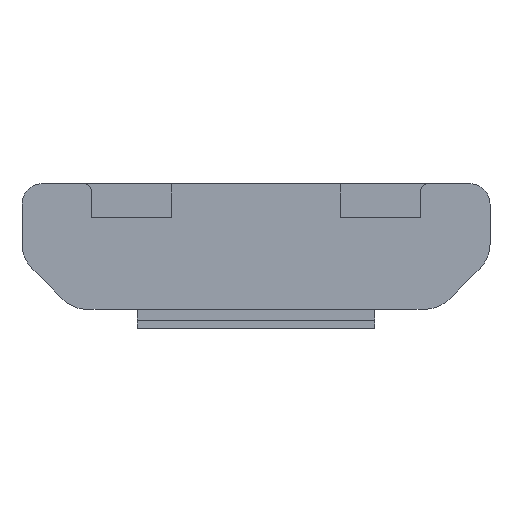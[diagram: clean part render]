
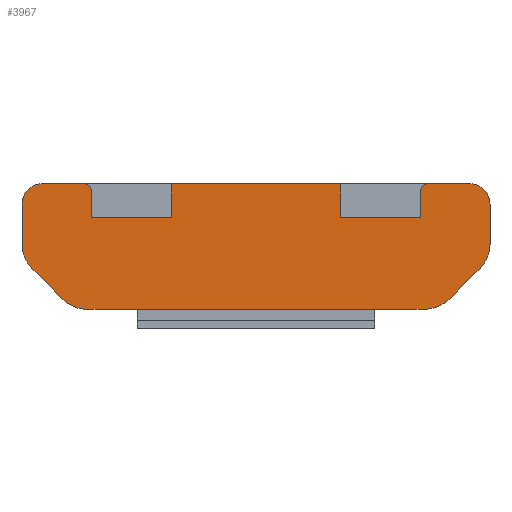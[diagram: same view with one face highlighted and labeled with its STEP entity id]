
A CAD part, front view. The second image highlights one B-rep face of the part: STEP entity #3967.
In plain terms, the highlighted planar face has unit normal (0, -1, 0).
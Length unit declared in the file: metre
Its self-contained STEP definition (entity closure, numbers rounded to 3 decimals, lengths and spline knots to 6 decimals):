
#104=PLANE('',#4334);
#145=ELLIPSE('',#4274,0.000501,0.0005);
#147=ELLIPSE('',#4277,0.000501,0.0005);
#517=LINE('',#6522,#955);
#521=LINE('',#6530,#959);
#542=LINE('',#6569,#980);
#546=LINE('',#6577,#984);
#547=LINE('',#6579,#985);
#552=LINE('',#6589,#990);
#555=LINE('',#6595,#993);
#557=LINE('',#6599,#995);
#562=LINE('',#6613,#1000);
#563=LINE('',#6614,#1001);
#564=LINE('',#6615,#1002);
#565=LINE('',#6616,#1003);
#566=LINE('',#6617,#1004);
#567=LINE('',#6618,#1005);
#568=LINE('',#6619,#1006);
#569=LINE('',#6620,#1007);
#955=VECTOR('',#5332,1.);
#959=VECTOR('',#5338,1.);
#980=VECTOR('',#5371,1.);
#984=VECTOR('',#5377,1.);
#985=VECTOR('',#5380,1.);
#990=VECTOR('',#5389,1.);
#993=VECTOR('',#5394,1.);
#995=VECTOR('',#5398,1.);
#1000=VECTOR('',#5413,1.);
#1001=VECTOR('',#5414,1.);
#1002=VECTOR('',#5415,1.);
#1003=VECTOR('',#5416,1.);
#1004=VECTOR('',#5417,1.);
#1005=VECTOR('',#5418,1.);
#1006=VECTOR('',#5419,1.);
#1007=VECTOR('',#5420,1.);
#1920=ORIENTED_EDGE('',*,*,#2747,.T.);
#1921=ORIENTED_EDGE('',*,*,#2613,.T.);
#1922=ORIENTED_EDGE('',*,*,#2764,.F.);
#1923=ORIENTED_EDGE('',*,*,#2763,.T.);
#1924=ORIENTED_EDGE('',*,*,#2765,.F.);
#1925=ORIENTED_EDGE('',*,*,#2666,.T.);
#1926=ORIENTED_EDGE('',*,*,#2766,.F.);
#1927=ORIENTED_EDGE('',*,*,#2663,.T.);
#1928=ORIENTED_EDGE('',*,*,#2717,.T.);
#1929=ORIENTED_EDGE('',*,*,#2767,.F.);
#1930=ORIENTED_EDGE('',*,*,#2721,.F.);
#1931=ORIENTED_EDGE('',*,*,#2658,.T.);
#1932=ORIENTED_EDGE('',*,*,#2768,.F.);
#1933=ORIENTED_EDGE('',*,*,#2655,.T.);
#1934=ORIENTED_EDGE('',*,*,#2769,.F.);
#1935=ORIENTED_EDGE('',*,*,#2760,.T.);
#1936=ORIENTED_EDGE('',*,*,#2770,.F.);
#1937=ORIENTED_EDGE('',*,*,#2607,.T.);
#1938=ORIENTED_EDGE('',*,*,#2755,.T.);
#1939=ORIENTED_EDGE('',*,*,#2752,.F.);
#1940=ORIENTED_EDGE('',*,*,#2757,.T.);
#1941=ORIENTED_EDGE('',*,*,#2771,.F.);
#1942=ORIENTED_EDGE('',*,*,#2746,.T.);
#1943=ORIENTED_EDGE('',*,*,#2742,.F.);
#2607=EDGE_CURVE('',#3071,#3072,#3266,.T.);
#2613=EDGE_CURVE('',#3078,#3077,#3269,.T.);
#2655=EDGE_CURVE('',#3107,#3108,#3288,.T.);
#2658=EDGE_CURVE('',#3111,#3110,#145,.T.);
#2663=EDGE_CURVE('',#3112,#3114,#147,.T.);
#2666=EDGE_CURVE('',#3115,#3116,#3289,.T.);
#2717=EDGE_CURVE('',#3114,#3141,#517,.T.);
#2721=EDGE_CURVE('',#3111,#3144,#521,.T.);
#2742=EDGE_CURVE('',#3156,#3157,#542,.T.);
#2746=EDGE_CURVE('',#3158,#3157,#546,.T.);
#2747=EDGE_CURVE('',#3156,#3078,#547,.T.);
#2752=EDGE_CURVE('',#3162,#3163,#552,.T.);
#2755=EDGE_CURVE('',#3072,#3163,#555,.T.);
#2757=EDGE_CURVE('',#3162,#3164,#557,.T.);
#2760=EDGE_CURVE('',#3165,#3166,#3306,.T.);
#2763=EDGE_CURVE('',#3167,#3168,#3307,.T.);
#2764=EDGE_CURVE('',#3167,#3077,#562,.T.);
#2765=EDGE_CURVE('',#3115,#3168,#563,.T.);
#2766=EDGE_CURVE('',#3112,#3116,#564,.T.);
#2767=EDGE_CURVE('',#3144,#3141,#565,.T.);
#2768=EDGE_CURVE('',#3107,#3110,#566,.T.);
#2769=EDGE_CURVE('',#3165,#3108,#567,.T.);
#2770=EDGE_CURVE('',#3071,#3166,#568,.T.);
#2771=EDGE_CURVE('',#3158,#3164,#569,.T.);
#3071=VERTEX_POINT('',#6299);
#3072=VERTEX_POINT('',#6300);
#3077=VERTEX_POINT('',#6311);
#3078=VERTEX_POINT('',#6313);
#3107=VERTEX_POINT('',#6401);
#3108=VERTEX_POINT('',#6403);
#3110=VERTEX_POINT('',#6409);
#3111=VERTEX_POINT('',#6411);
#3112=VERTEX_POINT('',#6415);
#3114=VERTEX_POINT('',#6419);
#3115=VERTEX_POINT('',#6423);
#3116=VERTEX_POINT('',#6425);
#3141=VERTEX_POINT('',#6523);
#3144=VERTEX_POINT('',#6531);
#3156=VERTEX_POINT('',#6570);
#3157=VERTEX_POINT('',#6571);
#3158=VERTEX_POINT('',#6576);
#3162=VERTEX_POINT('',#6590);
#3163=VERTEX_POINT('',#6591);
#3164=VERTEX_POINT('',#6598);
#3165=VERTEX_POINT('',#6602);
#3166=VERTEX_POINT('',#6604);
#3167=VERTEX_POINT('',#6608);
#3168=VERTEX_POINT('',#6610);
#3266=CIRCLE('',#4233,0.0001);
#3269=CIRCLE('',#4237,0.0001);
#3288=CIRCLE('',#4271,0.0005);
#3289=CIRCLE('',#4279,0.0005);
#3306=CIRCLE('',#4331,0.0003);
#3307=CIRCLE('',#4333,0.0003);
#3481=EDGE_LOOP('',(#1920,#1921,#1922,#1923,#1924,#1925,#1926,#1927,#1928,
#1929,#1930,#1931,#1932,#1933,#1934,#1935,#1936,#1937,#1938,#1939,#1940,
#1941,#1942,#1943));
#3687=FACE_BOUND('',#3481,.T.);
#3967=ADVANCED_FACE('',(#3687),#104,.F.);
#4233=AXIS2_PLACEMENT_3D('',#6298,#5102,#5103);
#4237=AXIS2_PLACEMENT_3D('',#6312,#5113,#5114);
#4271=AXIS2_PLACEMENT_3D('',#6404,#5200,#5201);
#4274=AXIS2_PLACEMENT_3D('',#6410,#5207,#5208);
#4277=AXIS2_PLACEMENT_3D('',#6420,#5216,#5217);
#4279=AXIS2_PLACEMENT_3D('',#6426,#5222,#5223);
#4331=AXIS2_PLACEMENT_3D('',#6605,#5403,#5404);
#4333=AXIS2_PLACEMENT_3D('',#6611,#5409,#5410);
#4334=AXIS2_PLACEMENT_3D('',#6612,#5411,#5412);
#5102=DIRECTION('',(0.,-1.,0.));
#5103=DIRECTION('',(-1.,0.,0.));
#5113=DIRECTION('',(0.,-1.,0.));
#5114=DIRECTION('',(-1.,0.,0.));
#5200=DIRECTION('',(0.,-1.,0.));
#5201=DIRECTION('',(-1.,0.,0.));
#5207=DIRECTION('',(0.,-1.,0.));
#5208=DIRECTION('',(0.707,0.,0.707));
#5216=DIRECTION('',(0.,-1.,0.));
#5217=DIRECTION('',(0.707,0.,-0.707));
#5222=DIRECTION('',(0.,-1.,0.));
#5223=DIRECTION('',(-1.,0.,0.));
#5332=DIRECTION('',(1.,0.,0.));
#5338=DIRECTION('',(-1.,0.,0.));
#5371=DIRECTION('',(1.,0.,0.));
#5377=DIRECTION('',(0.,0.,-1.));
#5380=DIRECTION('',(0.,0.,1.));
#5389=DIRECTION('',(1.,0.,0.));
#5394=DIRECTION('',(0.,0.,-1.));
#5398=DIRECTION('',(0.,0.,1.));
#5403=DIRECTION('',(0.,-1.,0.));
#5404=DIRECTION('',(-1.,0.,0.));
#5409=DIRECTION('',(0.,-1.,0.));
#5410=DIRECTION('',(-1.,0.,0.));
#5411=DIRECTION('',(0.,1.,0.));
#5412=DIRECTION('',(-1.,0.,0.));
#5413=DIRECTION('',(1.,0.,0.));
#5414=DIRECTION('',(0.,0.,1.));
#5415=DIRECTION('',(-0.707,0.,0.707));
#5416=DIRECTION('',(-1.,0.,0.));
#5417=DIRECTION('',(-0.707,0.,-0.707));
#5418=DIRECTION('',(0.,0.,-1.));
#5419=DIRECTION('',(1.,0.,0.));
#5420=DIRECTION('',(1.,0.,0.));
#6298=CARTESIAN_POINT('',(0.00253,0.0218,0.00255));
#6299=CARTESIAN_POINT('',(0.00253,0.0218,0.00265));
#6300=CARTESIAN_POINT('',(0.00243,0.0218,0.00255));
#6311=CARTESIAN_POINT('',(-0.00253,0.0218,0.00265));
#6312=CARTESIAN_POINT('',(-0.00253,0.0218,0.00255));
#6313=CARTESIAN_POINT('',(-0.00243,0.0218,0.00255));
#6401=CARTESIAN_POINT('',(0.003304,0.0218,0.001404));
#6403=CARTESIAN_POINT('',(0.00345,0.0218,0.001757));
#6404=CARTESIAN_POINT('',(0.00295,0.0218,0.001757));
#6409=CARTESIAN_POINT('',(0.002847,0.0218,0.000947));
#6410=CARTESIAN_POINT('',(0.002493,0.0218,0.0013));
#6411=CARTESIAN_POINT('',(0.002492,0.0218,0.0008));
#6415=CARTESIAN_POINT('',(-0.002847,0.0218,0.000947));
#6419=CARTESIAN_POINT('',(-0.002492,0.0218,0.0008));
#6420=CARTESIAN_POINT('',(-0.002493,0.0218,0.0013));
#6423=CARTESIAN_POINT('',(-0.00345,0.0218,0.001757));
#6425=CARTESIAN_POINT('',(-0.003304,0.0218,0.001404));
#6426=CARTESIAN_POINT('',(-0.00295,0.0218,0.001757));
#6522=CARTESIAN_POINT('',(0.00345,0.0218,0.0008));
#6523=CARTESIAN_POINT('',(-0.00175,0.0218,0.0008));
#6530=CARTESIAN_POINT('',(0.0027,0.0218,0.0008));
#6531=CARTESIAN_POINT('',(0.00175,0.0218,0.0008));
#6569=CARTESIAN_POINT('',(0.00125,0.0218,0.00215));
#6570=CARTESIAN_POINT('',(-0.00243,0.0218,0.00215));
#6571=CARTESIAN_POINT('',(-0.00125,0.0218,0.00215));
#6576=CARTESIAN_POINT('',(-0.00125,0.0218,0.00265));
#6577=CARTESIAN_POINT('',(-0.00125,0.0218,0.0008));
#6579=CARTESIAN_POINT('',(-0.00243,0.0218,0.0008));
#6589=CARTESIAN_POINT('',(0.00345,0.0218,0.00215));
#6590=CARTESIAN_POINT('',(0.00125,0.0218,0.00215));
#6591=CARTESIAN_POINT('',(0.00243,0.0218,0.00215));
#6595=CARTESIAN_POINT('',(0.00243,0.0218,0.0008));
#6598=CARTESIAN_POINT('',(0.00125,0.0218,0.00265));
#6599=CARTESIAN_POINT('',(0.00125,0.0218,0.0008));
#6602=CARTESIAN_POINT('',(0.00345,0.0218,0.00235));
#6604=CARTESIAN_POINT('',(0.00315,0.0218,0.00265));
#6605=CARTESIAN_POINT('',(0.00315,0.0218,0.00235));
#6608=CARTESIAN_POINT('',(-0.00315,0.0218,0.00265));
#6610=CARTESIAN_POINT('',(-0.00345,0.0218,0.00235));
#6611=CARTESIAN_POINT('',(-0.00315,0.0218,0.00235));
#6612=CARTESIAN_POINT('',(0.00345,0.0218,0.0008));
#6613=CARTESIAN_POINT('',(-0.00345,0.0218,0.00265));
#6614=CARTESIAN_POINT('',(-0.00345,0.0218,0.00155));
#6615=CARTESIAN_POINT('',(-0.0027,0.0218,0.0008));
#6616=CARTESIAN_POINT('',(0.0027,0.0218,0.0008));
#6617=CARTESIAN_POINT('',(0.00345,0.0218,0.00155));
#6618=CARTESIAN_POINT('',(0.00345,0.0218,0.00265));
#6619=CARTESIAN_POINT('',(-0.00345,0.0218,0.00265));
#6620=CARTESIAN_POINT('',(-0.00345,0.0218,0.00265));
